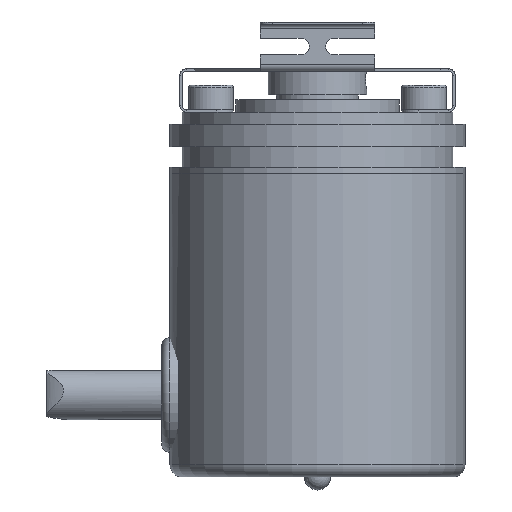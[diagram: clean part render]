
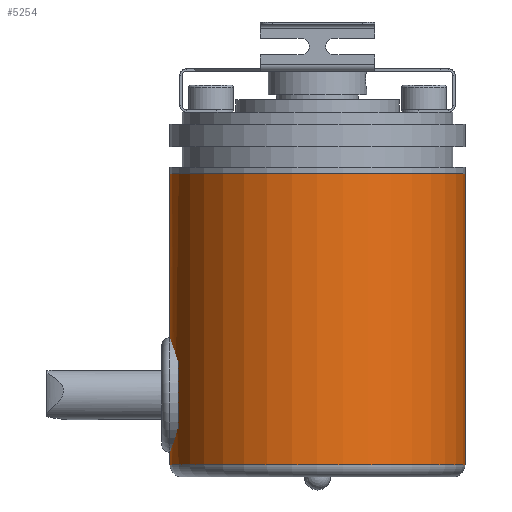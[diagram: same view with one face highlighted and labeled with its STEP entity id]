
A CAD part, front view. The second image highlights one B-rep face of the part: STEP entity #5254.
In plain terms, the highlighted cylindrical face has radius 18 mm (diameter 36 mm), a full revolution.
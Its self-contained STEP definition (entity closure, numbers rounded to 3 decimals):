
#106 = AXIS2_PLACEMENT_3D ( 'NONE', #606, #5887, #1273 ) ;
#358 = ORIENTED_EDGE ( 'NONE', *, *, #7296, .F. ) ;
#603 = CARTESIAN_POINT ( 'NONE',  ( -54.009, -22.497, -34.526 ) ) ;
#606 = CARTESIAN_POINT ( 'NONE',  ( -36.453, -26.475, -39.977 ) ) ;
#638 = CARTESIAN_POINT ( 'NONE',  ( -53.834, -31.156, -33.243 ) ) ;
#722 = CARTESIAN_POINT ( 'NONE',  ( -54.417, -25.171, -26.605 ) ) ;
#749 = CARTESIAN_POINT ( 'NONE',  ( -53.924, -30.813, -33.986 ) ) ;
#775 = CARTESIAN_POINT ( 'NONE',  ( -53.783, -21.602, -32.78 ) ) ;
#840 = CARTESIAN_POINT ( 'NONE',  ( -54.279, -23.964, -27.141 ) ) ;
#980 = CARTESIAN_POINT ( 'NONE',  ( -54.453, -27.139, -36.477 ) ) ;
#1045 = CIRCLE ( 'NONE', #106, 18. ) ;
#1224 = CARTESIAN_POINT ( 'NONE',  ( -54.453, -26.475, -36.477 ) ) ;
#1273 = DIRECTION ( 'NONE',  ( 0., 1., 0. ) ) ;
#1441 = ORIENTED_EDGE ( 'NONE', *, *, #9472, .T. ) ;
#1465 = CARTESIAN_POINT ( 'NONE',  ( -53.945, -30.723, -28.834 ) ) ;
#1611 = CARTESIAN_POINT ( 'NONE',  ( -36.453, -26.475, -4.477 ) ) ;
#1616 = CARTESIAN_POINT ( 'NONE',  ( -54.279, -23.964, -35.814 ) ) ;
#1647 = CARTESIAN_POINT ( 'NONE',  ( -53.783, -31.348, -30.175 ) ) ;
#1728 = CARTESIAN_POINT ( 'NONE',  ( -54.195, -23.425, -35.454 ) ) ;
#1799 = EDGE_CURVE ( 'NONE', #11644, #3628, #5406, .T. ) ;
#2269 = VERTEX_POINT ( 'NONE', #11479 ) ;
#2470 = CARTESIAN_POINT ( 'NONE',  ( -53.868, -21.922, -33.549 ) ) ;
#2651 = CARTESIAN_POINT ( 'NONE',  ( -54.009, -22.497, -28.429 ) ) ;
#3396 = CARTESIAN_POINT ( 'NONE',  ( -54.409, -27.773, -26.637 ) ) ;
#3416 = FACE_OUTER_BOUND ( 'NONE', #5858, .T. ) ;
#3447 = CARTESIAN_POINT ( 'NONE',  ( -53.868, -31.029, -29.406 ) ) ;
#3513 = CARTESIAN_POINT ( 'NONE',  ( -54.056, -30.245, -34.779 ) ) ;
#3541 = CARTESIAN_POINT ( 'NONE',  ( -53.819, -21.738, -29.869 ) ) ;
#3622 = CARTESIAN_POINT ( 'NONE',  ( -36.453, -26.475, -4.477 ) ) ;
#3628 = VERTEX_POINT ( 'NONE', #1224 ) ;
#3691 = CARTESIAN_POINT ( 'NONE',  ( -54.318, -28.7, -35.967 ) ) ;
#3802 = CARTESIAN_POINT ( 'NONE',  ( -54.444, -25.817, -36.446 ) ) ;
#4109 = EDGE_LOOP ( 'NONE', ( #358 ) ) ;
#4218 = CARTESIAN_POINT ( 'NONE',  ( -54.444, -27.133, -26.509 ) ) ;
#4284 = CARTESIAN_POINT ( 'NONE',  ( -54.009, -30.453, -28.429 ) ) ;
#4310 = DIRECTION ( 'NONE',  ( 0., 0., -1. ) ) ;
#4369 = CARTESIAN_POINT ( 'NONE',  ( -53.925, -22.144, -33.982 ) ) ;
#4432 = CARTESIAN_POINT ( 'NONE',  ( -54.056, -22.706, -28.176 ) ) ;
#4469 = CARTESIAN_POINT ( 'NONE',  ( -54.453, -26.475, -26.477 ) ) ;
#4702 = CARTESIAN_POINT ( 'NONE',  ( -54.453, -26.475, -36.477 ) ) ;
#4727 = CARTESIAN_POINT ( 'NONE',  ( -54.453, -26.475, -26.477 ) ) ;
#5125 = CARTESIAN_POINT ( 'NONE',  ( -53.886, -30.96, -29.26 ) ) ;
#5176 = CARTESIAN_POINT ( 'NONE',  ( -53.745, -31.475, -31.809 ) ) ;
#5245 = CARTESIAN_POINT ( 'NONE',  ( -54.279, -28.986, -27.141 ) ) ;
#5254 = ADVANCED_FACE ( 'NONE', ( #8135, #7242, #3416 ), #11617, .T. ) ;
#5278 = CARTESIAN_POINT ( 'NONE',  ( -54.15, -23.174, -35.248 ) ) ;
#5306 = CARTESIAN_POINT ( 'NONE',  ( -53.885, -30.966, -33.699 ) ) ;
#5406 = B_SPLINE_CURVE_WITH_KNOTS ( 'NONE', 3,
 ( #4469, #7986, #4218, #3396, #9699, #11540, #5245, #6985, #7043, #9821, #4284, #1465, #11596, #5125, #3447, #1647, #10716, #5176, #11480, #10602, #6208, #8829, #638, #5306, #749, #11661, #3513, #6317, #6500, #10001, #3691, #9938, #980, #6448 ),
 .UNSPECIFIED., .F., .F.,
 ( 4, 2, 2, 2, 2, 2, 2, 2, 2, 2, 2, 2, 2, 2, 2, 2, 4 ),
 ( 0., 0.063, 0.125, 0.188, 0.25, 0.313, 0.344, 0.375, 0.5, 0.563, 0.594, 0.625, 0.688, 0.75, 0.813, 0.875, 1. ),
 .UNSPECIFIED. ) ;
#5530 = DIRECTION ( 'NONE',  ( 0., -1., 0. ) ) ;
#5645 = AXIS2_PLACEMENT_3D ( 'NONE', #3622, #11057, #5530 ) ;
#5858 = EDGE_LOOP ( 'NONE', ( #10731 ) ) ;
#5887 = DIRECTION ( 'NONE',  ( 0., 0., -1. ) ) ;
#6208 = CARTESIAN_POINT ( 'NONE',  ( -53.792, -31.308, -32.772 ) ) ;
#6316 = CARTESIAN_POINT ( 'NONE',  ( -36.453, -44.475, -4.477 ) ) ;
#6317 = CARTESIAN_POINT ( 'NONE',  ( -54.149, -29.777, -35.246 ) ) ;
#6448 = CARTESIAN_POINT ( 'NONE',  ( -54.453, -26.475, -36.477 ) ) ;
#6500 = CARTESIAN_POINT ( 'NONE',  ( -54.195, -29.526, -35.454 ) ) ;
#6985 = CARTESIAN_POINT ( 'NONE',  ( -54.195, -29.526, -27.501 ) ) ;
#7015 = CARTESIAN_POINT ( 'NONE',  ( -53.745, -21.475, -31.146 ) ) ;
#7043 = CARTESIAN_POINT ( 'NONE',  ( -54.15, -29.776, -27.707 ) ) ;
#7068 = CARTESIAN_POINT ( 'NONE',  ( -54.318, -24.251, -35.968 ) ) ;
#7194 = CARTESIAN_POINT ( 'NONE',  ( -54.195, -23.425, -27.501 ) ) ;
#7242 = FACE_BOUND ( 'NONE', #9187, .T. ) ;
#7296 = EDGE_CURVE ( 'NONE', #9820, #9820, #9262, .T. ) ;
#7440 = CARTESIAN_POINT ( 'NONE',  ( -54.409, -25.178, -36.318 ) ) ;
#7598 = B_SPLINE_CURVE_WITH_KNOTS ( 'NONE', 3,
 ( #4702, #8339, #3802, #7440, #11059, #7068, #1616, #1728, #5278, #8968, #603, #11686, #4369, #7962, #2470, #775, #11625, #7015, #8918, #7903, #10745, #3541, #9789, #10805, #10627, #2651, #4432, #8859, #7194, #840, #8073, #722, #9851, #11567 ),
 .UNSPECIFIED., .F., .F.,
 ( 4, 2, 2, 2, 2, 2, 2, 2, 2, 2, 2, 2, 2, 2, 2, 2, 4 ),
 ( 0., 0.063, 0.125, 0.188, 0.25, 0.313, 0.344, 0.375, 0.5, 0.563, 0.594, 0.625, 0.688, 0.75, 0.813, 0.875, 1. ),
 .UNSPECIFIED. ) ;
#7903 = CARTESIAN_POINT ( 'NONE',  ( -53.781, -21.602, -30.341 ) ) ;
#7962 = CARTESIAN_POINT ( 'NONE',  ( -53.886, -21.991, -33.695 ) ) ;
#7986 = CARTESIAN_POINT ( 'NONE',  ( -54.453, -26.807, -26.477 ) ) ;
#8073 = CARTESIAN_POINT ( 'NONE',  ( -54.318, -24.25, -26.988 ) ) ;
#8135 = FACE_OUTER_BOUND ( 'NONE', #4109, .T. ) ;
#8339 = CARTESIAN_POINT ( 'NONE',  ( -54.453, -26.143, -36.477 ) ) ;
#8430 = ORIENTED_EDGE ( 'NONE', *, *, #1799, .T. ) ;
#8829 = CARTESIAN_POINT ( 'NONE',  ( -53.819, -31.213, -33.086 ) ) ;
#8859 = CARTESIAN_POINT ( 'NONE',  ( -54.149, -23.173, -27.708 ) ) ;
#8918 = CARTESIAN_POINT ( 'NONE',  ( -53.754, -21.507, -30.821 ) ) ;
#8968 = CARTESIAN_POINT ( 'NONE',  ( -54.056, -22.705, -34.778 ) ) ;
#9187 = EDGE_LOOP ( 'NONE', ( #1441, #8430 ) ) ;
#9262 = CIRCLE ( 'NONE', #5645, 18. ) ;
#9472 = EDGE_CURVE ( 'NONE', #3628, #11644, #7598, .T. ) ;
#9699 = CARTESIAN_POINT ( 'NONE',  ( -54.384, -28.088, -26.733 ) ) ;
#9721 = DIRECTION ( 'NONE',  ( 0., -1., 0. ) ) ;
#9789 = CARTESIAN_POINT ( 'NONE',  ( -53.834, -21.794, -29.712 ) ) ;
#9820 = VERTEX_POINT ( 'NONE', #6316 ) ;
#9821 = CARTESIAN_POINT ( 'NONE',  ( -54.056, -30.246, -28.177 ) ) ;
#9851 = CARTESIAN_POINT ( 'NONE',  ( -54.453, -25.811, -26.477 ) ) ;
#9938 = CARTESIAN_POINT ( 'NONE',  ( -54.417, -27.78, -36.35 ) ) ;
#10001 = CARTESIAN_POINT ( 'NONE',  ( -54.279, -28.987, -35.814 ) ) ;
#10149 = AXIS2_PLACEMENT_3D ( 'NONE', #1611, #4310, #9721 ) ;
#10331 = EDGE_CURVE ( 'NONE', #2269, #2269, #1045, .T. ) ;
#10602 = CARTESIAN_POINT ( 'NONE',  ( -53.781, -31.348, -32.614 ) ) ;
#10627 = CARTESIAN_POINT ( 'NONE',  ( -53.924, -22.137, -28.969 ) ) ;
#10716 = CARTESIAN_POINT ( 'NONE',  ( -53.745, -31.475, -30.815 ) ) ;
#10731 = ORIENTED_EDGE ( 'NONE', *, *, #10331, .F. ) ;
#10745 = CARTESIAN_POINT ( 'NONE',  ( -53.792, -21.642, -30.183 ) ) ;
#10805 = CARTESIAN_POINT ( 'NONE',  ( -53.885, -21.984, -29.255 ) ) ;
#11057 = DIRECTION ( 'NONE',  ( 0., 0., 1. ) ) ;
#11059 = CARTESIAN_POINT ( 'NONE',  ( -54.384, -24.863, -36.222 ) ) ;
#11479 = CARTESIAN_POINT ( 'NONE',  ( -36.453, -8.475, -39.977 ) ) ;
#11480 = CARTESIAN_POINT ( 'NONE',  ( -53.754, -31.444, -32.134 ) ) ;
#11540 = CARTESIAN_POINT ( 'NONE',  ( -54.318, -28.699, -26.987 ) ) ;
#11567 = CARTESIAN_POINT ( 'NONE',  ( -54.453, -26.475, -26.477 ) ) ;
#11596 = CARTESIAN_POINT ( 'NONE',  ( -53.925, -30.807, -28.973 ) ) ;
#11617 = CYLINDRICAL_SURFACE ( 'NONE', #10149, 18. ) ;
#11625 = CARTESIAN_POINT ( 'NONE',  ( -53.745, -21.475, -32.14 ) ) ;
#11644 = VERTEX_POINT ( 'NONE', #4727 ) ;
#11661 = CARTESIAN_POINT ( 'NONE',  ( -54.009, -30.453, -34.525 ) ) ;
#11686 = CARTESIAN_POINT ( 'NONE',  ( -53.945, -22.227, -34.121 ) ) ;
